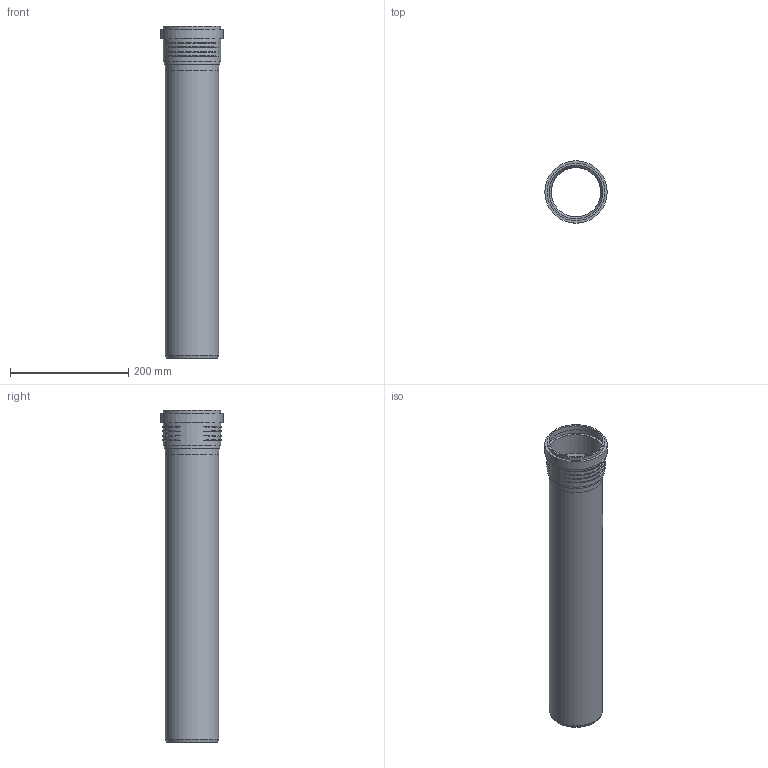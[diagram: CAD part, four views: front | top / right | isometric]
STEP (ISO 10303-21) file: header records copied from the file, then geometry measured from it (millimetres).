
FILE_DESCRIPTION(/* description */ (''),/* implementation_level */ '2;1');
FILE_NAME(/* name */ 'Z:\Geberit\Export\NewStep\390402.stp',/* time_stamp */ '2014-04-02T08:12:15+02:00',/* author */ ('ML'),/* organization */ (''),/* preprocessor_version */ 'ST-DEVELOPER v15.2',/* originating_system */ 'Autodesk Inventor 2014',/* authorisation */ '');
FILE_SCHEMA (('AUTOMOTIVE_DESIGN { 1 0 10303 214 3 1 1 }'));
Length unit declared in the file: millimetre
Products named in the file (3): 861433; 861584ohne; 390402
Bounding box: 105.4 x 105.4 x 561 mm (x, y, z)
Volume: 499446.7 mm3; surface area: 326429.6 mm2
Topology: 2 solids, 2 shells, 47 faces, 104 edges, 71 vertices
Faces by surface type: torus 24, cylinder 11, plane 10, cone 2
Full cylindrical faces by diameter (mm): 84 x2, 90.2 x2, 91 x2, 94.1 x1, 97.2 x2, 99.2 x1, 105.4 x1
Entity records: 2003 total; most frequent: CARTESIAN_POINT 962, DIRECTION 182, ORIENTED_EDGE 174, AXIS2_PLACEMENT_3D 91, EDGE_CURVE 87, EDGE_LOOP 78, VERTEX_POINT 71, STYLED_ITEM 49
